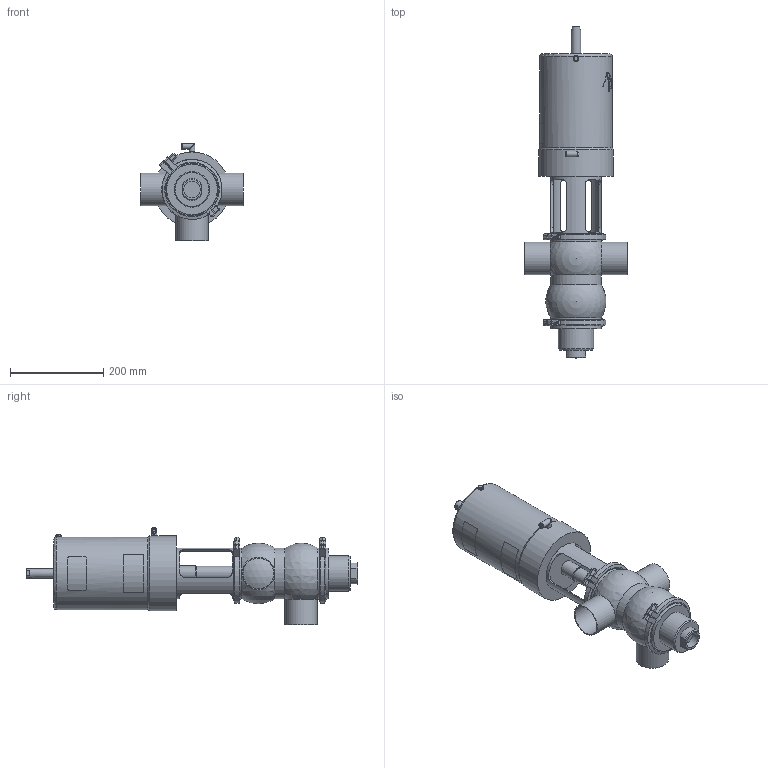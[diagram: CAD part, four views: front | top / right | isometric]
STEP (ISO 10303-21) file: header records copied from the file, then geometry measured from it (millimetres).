
FILE_DESCRIPTION (( 'STEP AP214' ), '1' );
FILE_NAME ('INNOVA S AB-90 W DIN 065_10.251.16.0001.STEP', '2024-08-20T12:09:47', ( '' ), ( '' ), 'SwSTEP 2.0', 'SolidWorks 2023', '' );
FILE_SCHEMA (( 'AUTOMOTIVE_DESIGN' ));
Length unit declared in the file: millimetre
Products named in the file (6): INNOVA S AB-90 W DIN 065_10.251.16.0001; 10.251.15.0003_DIN 065; 10.251.15.0001_DN 065; 10.251.15.0002_DN 065; 10.250.15.0002_Type S T2; 10.240.15.0001_DN 065
Assembly tree (6 placements, depth 2):
  INNOVA S AB-90 W DIN 065_10.251.16.0001
    10.251.15.0001_DN 065
    10.250.15.0002_Type S T2
    10.251.15.0003_DIN 065
    10.240.15.0001_DN 065  x2
    10.251.15.0002_DN 065
Bounding box: 220 x 713 x 209 mm (x, y, z)
Volume: 8022693.2 mm3; surface area: 514186.9 mm2
Topology: 6 solids, 6 shells, 426 faces, 1097 edges, 715 vertices
Faces by surface type: plane 204, cylinder 109, bspline 80, cone 27, sphere 5, torus 1
Full cylindrical faces by diameter (mm): 4.2 x2, 5 x1, 6 x1, 6.15 x1, 8 x4, 8.5 x1, 10.5 x2, 12.5 x6, 20 x1, 30.5 x1, 32 x1, 35 x1, 66 x3, 70 x3, 76 x1, 109 x5, 109.1 x1, 121 x4, 156 x1, 161 x1
Entity records: 22292 total; most frequent: CARTESIAN_POINT 12112, ORIENTED_EDGE 1720, DIRECTION 1355, EDGE_CURVE 860, VERTEX_POINT 592, AXIS2_PLACEMENT_3D 522, EDGE_LOOP 464, FACE_OUTER_BOUND 410
